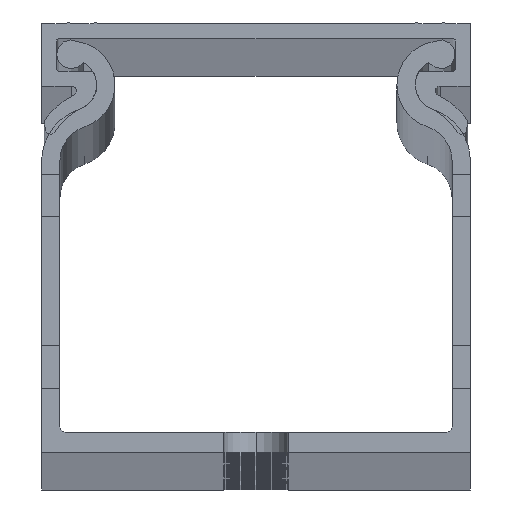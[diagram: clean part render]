
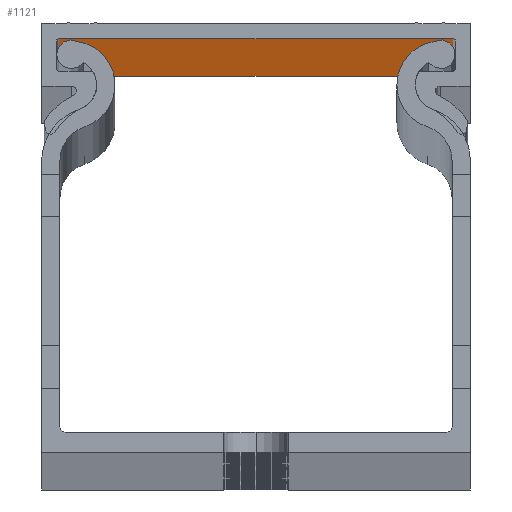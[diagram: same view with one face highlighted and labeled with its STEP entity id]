
A CAD part, top view. The second image highlights one B-rep face of the part: STEP entity #1121.
In plain terms, the highlighted planar face has unit normal (0, -1, 0).
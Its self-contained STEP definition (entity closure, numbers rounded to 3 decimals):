
#1121 = ADVANCED_FACE ( 'NONE', ( #26297 ), #3959, .F. ) ;
#3134 = VERTEX_POINT ( 'NONE', #10739 ) ;
#3418 = DIRECTION ( 'NONE',  ( 0., 0., 1. ) ) ;
#3959 = PLANE ( 'NONE',  #47557 ) ;
#4880 = ORIENTED_EDGE ( 'NONE', *, *, #40208, .T. ) ;
#6961 = VECTOR ( 'NONE', #40538, 1000. ) ;
#9421 = LINE ( 'NONE', #50619, #21695 ) ;
#10739 = CARTESIAN_POINT ( 'NONE',  ( 2550.007, 1295.656, 2000. ) ) ;
#11869 = DIRECTION ( 'NONE',  ( 0., 1., 0. ) ) ;
#12642 = CARTESIAN_POINT ( 'NONE',  ( 2586.807, 1295.656, 0. ) ) ;
#14530 = EDGE_LOOP ( 'NONE', ( #36717, #45434, #28544, #4880 ) ) ;
#15817 = CARTESIAN_POINT ( 'NONE',  ( 2586.807, 1295.656, 2000. ) ) ;
#17208 = VERTEX_POINT ( 'NONE', #15817 ) ;
#17455 = EDGE_CURVE ( 'NONE', #17208, #21223, #38245, .T. ) ;
#17526 = VECTOR ( 'NONE', #33124, 1000. ) ;
#20363 = CARTESIAN_POINT ( 'NONE',  ( 2568.407, 1295.656, 2000. ) ) ;
#21223 = VERTEX_POINT ( 'NONE', #12642 ) ;
#21308 = EDGE_CURVE ( 'NONE', #33387, #21223, #9421, .T. ) ;
#21695 = VECTOR ( 'NONE', #21863, 1000. ) ;
#21863 = DIRECTION ( 'NONE',  ( 1., 0., 0. ) ) ;
#23473 = CARTESIAN_POINT ( 'NONE',  ( 2568.407, 1295.656, 2000. ) ) ;
#24646 = CARTESIAN_POINT ( 'NONE',  ( 2550.007, 1295.656, 2000. ) ) ;
#25025 = LINE ( 'NONE', #23473, #6961 ) ;
#26297 = FACE_OUTER_BOUND ( 'NONE', #14530, .T. ) ;
#26644 = EDGE_CURVE ( 'NONE', #3134, #17208, #25025, .T. ) ;
#28544 = ORIENTED_EDGE ( 'NONE', *, *, #26644, .F. ) ;
#29149 = LINE ( 'NONE', #24646, #17526 ) ;
#29713 = CARTESIAN_POINT ( 'NONE',  ( 2586.807, 1295.656, 2000. ) ) ;
#33124 = DIRECTION ( 'NONE',  ( 0., 0., -1. ) ) ;
#33387 = VERTEX_POINT ( 'NONE', #35163 ) ;
#33676 = DIRECTION ( 'NONE',  ( 0., 0., -1. ) ) ;
#35163 = CARTESIAN_POINT ( 'NONE',  ( 2550.007, 1295.656, 0. ) ) ;
#36717 = ORIENTED_EDGE ( 'NONE', *, *, #21308, .T. ) ;
#38245 = LINE ( 'NONE', #29713, #49238 ) ;
#40208 = EDGE_CURVE ( 'NONE', #3134, #33387, #29149, .T. ) ;
#40538 = DIRECTION ( 'NONE',  ( 1., 0., 0. ) ) ;
#45434 = ORIENTED_EDGE ( 'NONE', *, *, #17455, .F. ) ;
#47557 = AXIS2_PLACEMENT_3D ( 'NONE', #20363, #11869, #3418 ) ;
#49238 = VECTOR ( 'NONE', #33676, 1000. ) ;
#50619 = CARTESIAN_POINT ( 'NONE',  ( 2568.407, 1295.656, 0. ) ) ;
